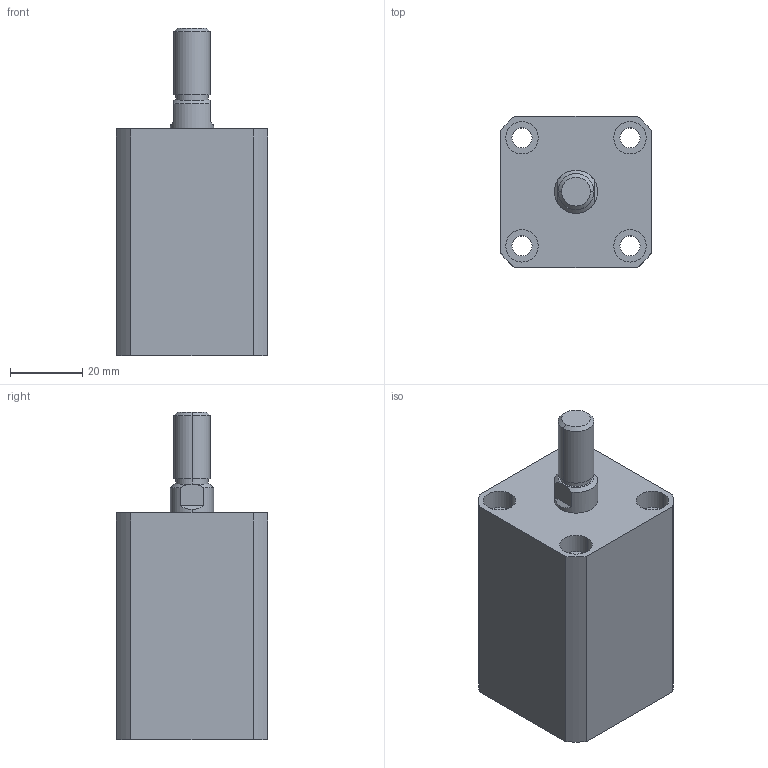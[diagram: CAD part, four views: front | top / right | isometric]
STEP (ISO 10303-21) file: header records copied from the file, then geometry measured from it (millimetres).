
FILE_DESCRIPTION (( 'STEP AP203' ), '1' );
FILE_NAME ('HTB-SDMB20-20W.STEP', '2019-10-08T11:54:49', ( '微软用户' ), ( '微软中国' ), 'SwSTEP 2.0', 'SolidWorks 2012', '' );
FILE_SCHEMA (( 'CONFIG_CONTROL_DESIGN' ));
Length unit declared in the file: millimetre
Products named in the file (3): HTB-SDMB20-20掛极; HTB-SDMB20-20W活塞杆; HTB-SDMB20-20W
Assembly tree (2 placements, depth 2):
  HTB-SDMB20-20W
    HTB-SDMB20-20掛极
    HTB-SDMB20-20W活塞杆
Bounding box: 42 x 42 x 91 mm (x, y, z)
Volume: 99395.9 mm3; surface area: 25676.6 mm2
Topology: 2 solids, 2 shells, 140 faces, 332 edges, 218 vertices
Faces by surface type: plane 66, cylinder 48, bspline 16, torus 6, cone 4
Entity records: 5129 total; most frequent: CARTESIAN_POINT 1587, ORIENTED_EDGE 664, DIRECTION 662, EDGE_CURVE 332, AXIS2_PLACEMENT_3D 241, VERTEX_POINT 218, VECTOR 180, LINE 180
